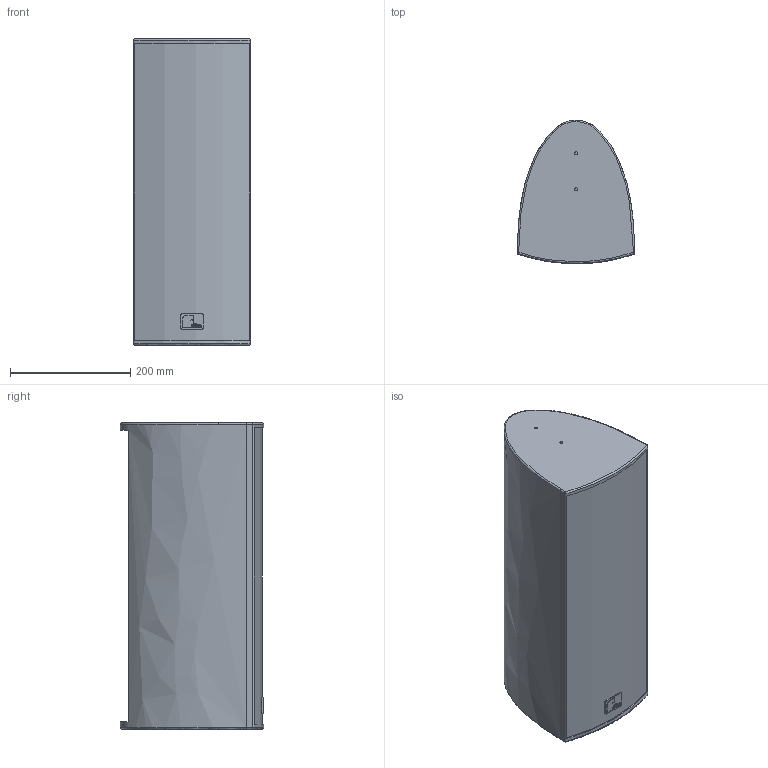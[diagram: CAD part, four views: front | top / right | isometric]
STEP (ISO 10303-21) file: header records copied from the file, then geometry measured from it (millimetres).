
FILE_DESCRIPTION(/* description */ (''),/* implementation_level */ '2;1');
FILE_NAME(/* name */ 'AT-09_LO',/* time_stamp */ '2018-08-06T10:55:55+02:00',/* author */ (''),/* organization */ (''),/* preprocessor_version */ 'ST-DEVELOPER v14',/* originating_system */ '',/* authorisation */ '');
FILE_SCHEMA (('AUTOMOTIVE_DESIGN'));
Length unit declared in the file: millimetre
Products named in the file (1): Document
Bounding box: 195 x 238.48 x 510 mm (x, y, z)
Surface area: 662601.3 mm2 (no closed solid volume)
Topology: 0 solids, 133 shells, 143 faces, 628 edges, 608 vertices
Faces by surface type: bspline 103, plane 40
Entity records: 8725 total; most frequent: CARTESIAN_POINT 5618, ORIENTED_EDGE 648, EDGE_CURVE 628, VERTEX_POINT 608, B_SPLINE_CURVE_WITH_KNOTS 200, EDGE_LOOP 160, ADVANCED_FACE 143, FACE_OUTER_BOUND 143
